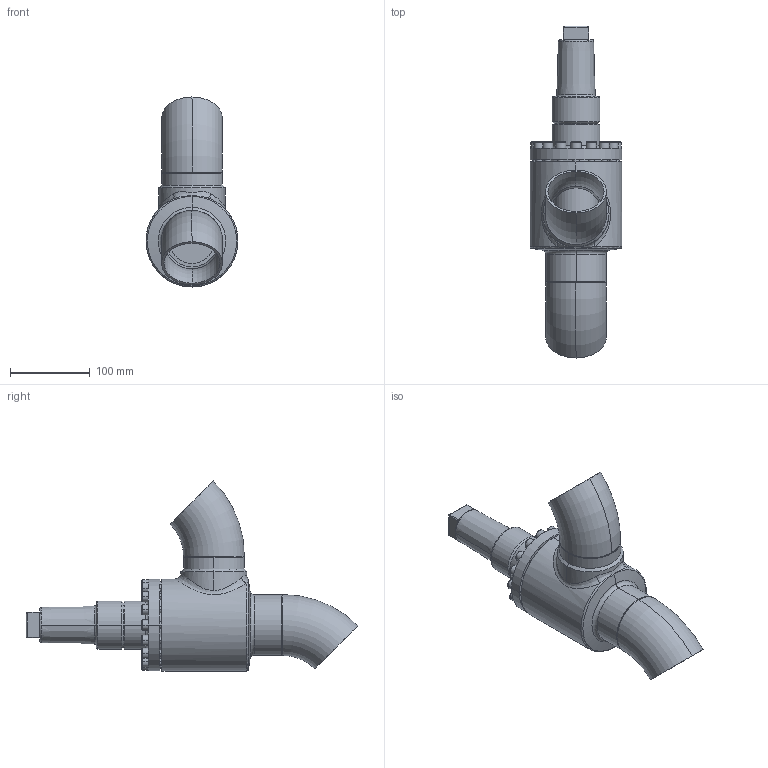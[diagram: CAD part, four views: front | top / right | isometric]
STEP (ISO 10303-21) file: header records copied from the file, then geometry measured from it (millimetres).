
FILE_DESCRIPTION (( 'STEP AP214' ), '1' );
FILE_NAME ('RVA29300D17-DN065_R1_PS40.STEP', '2006-04-28T05:33:08', ( 'Herr Grams' ), ( 'AWP GmbH' ), 'SwSTEP 2.0', 'SolidWorks 2002296', '' );
FILE_SCHEMA (( 'AUTOMOTIVE_DESIGN' ));
Length unit declared in the file: millimetre
Products named in the file (10): RVA29300D17-DN065_R1_PS40; Gehäuse-kpl16300-DN065_R1_Standard; Gehäuse16400-DN065_Standard; bead-DN065-3_Standard; bead-DN065-2_Standard; Rohrbogen 45°_Rohrbogen-DN065-45°; RVA29300K17_Deck+Schr-DN065_Standard; Deckel29300K17-DN65_Standard; Zylinderschraube-DIN912_M 8x 25; Kappe16402_DN040-65_Standard
Assembly tree (25 placements, depth 3):
  RVA29300D17-DN065_R1_PS40
    RVA29300K17_Deck+Schr-DN065_Standard
      Zylinderschraube-DIN912_M 8x 25  x16
      Deckel29300K17-DN65_Standard
    Gehäuse-kpl16300-DN065_R1_Standard
      Rohrbogen 45°_Rohrbogen-DN065-45°  x2
      Gehäuse16400-DN065_Standard
      bead-DN065-2_Standard
      bead-DN065-3_Standard
    Kappe16402_DN040-65_Standard
Bounding box: 115 x 415.08 x 237.58 mm (x, y, z)
Volume: 1180359.6 mm3; surface area: 292733.4 mm2
Topology: 23 solids, 23 shells, 463 faces, 1018 edges, 646 vertices
Faces by surface type: plane 198, cylinder 150, torus 55, cone 50, bspline 10
Entity records: 17307 total; most frequent: CARTESIAN_POINT 12204, DIRECTION 1012, ORIENTED_EDGE 872, EDGE_CURVE 436, AXIS2_PLACEMENT_3D 435, VERTEX_POINT 278, EDGE_LOOP 244, CIRCLE 228
